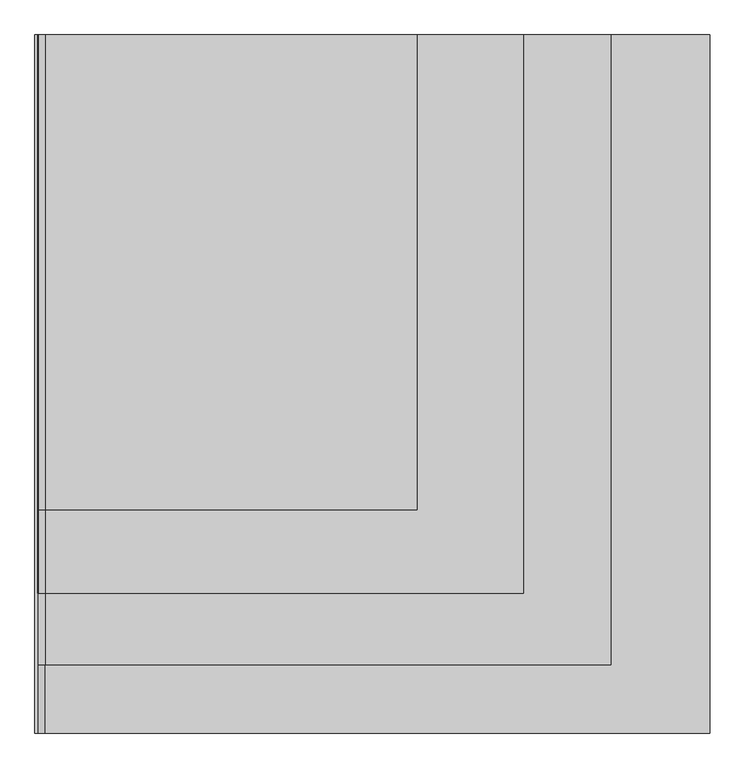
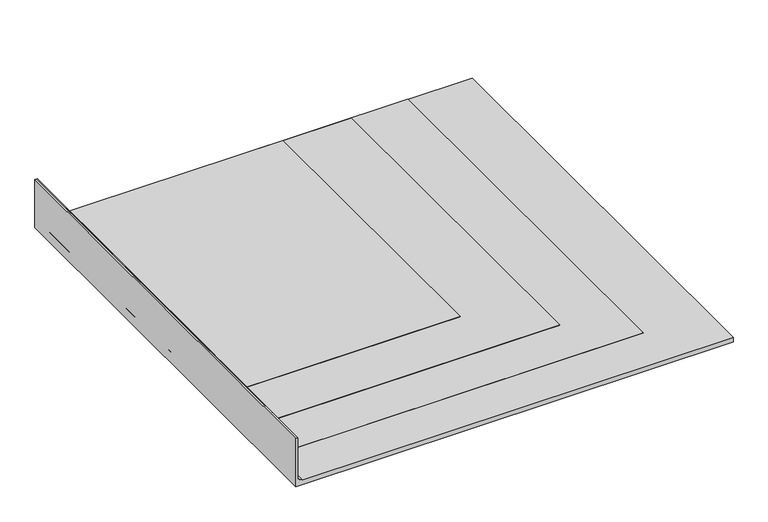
"""IFC4 building model written with IfcOpenShell, lengths in millimetres: proxy geometry, IMPER:IMPER:433934 : IMPER:IMPER:433934."""

import ifcopenshell
import ifcopenshell.guid

model = None  # the IFC model being written
_history = None  # IfcOwnerHistory: only IFC2X3 demands one
_inside = {}  # id of a spatial element -> (the spatial element, [elements in it])
_under = {}  # id of a project, library or spatial element -> (it, [spatial elements below it])
_declared = {}  # id of a project -> (the project, [libraries it declares])
_typed = {}  # id of a type object -> (the type object, [elements of that type])
_made_of = {}  # id of a material, layer set ... -> (it, [elements and type objects made of it])


def new_model(schema):
    """Start an empty IFC model of exactly this schema.

    Asked for "IFC4X3", IfcOpenShell would pick the latest addendum, in which some entities
    have other attributes; the version numbers below select the first issue.
    IFC2X3 requires an IfcOwnerHistory on every rooted entity: one is made here for all.
    """
    global model, _history
    if schema == "IFC4X3":
        model = ifcopenshell.file(schema_version=(4, 3, 0, 0))
    else:
        model = ifcopenshell.file(schema=schema)
    _inside.clear()
    _under.clear()
    _declared.clear()
    _typed.clear()
    _made_of.clear()
    _history = None
    if model.schema == "IFC2X3":
        org = make("IfcOrganization", Name="unknown")
        user = make(
            "IfcPersonAndOrganization",
            ThePerson=make("IfcPerson", FamilyName="unknown"),
            TheOrganization=org,
        )
        app = make(
            "IfcApplication",
            ApplicationDeveloper=org,
            Version="unknown",
            ApplicationFullName="unknown",
            ApplicationIdentifier="unknown",
        )
        _history = make(
            "IfcOwnerHistory",
            OwningUser=user,
            OwningApplication=app,
            ChangeAction="ADDED",
            CreationDate=0,
        )
    return model


def make(cls, **values):
    """One entity of the class cls with the attributes given. An attribute that is None is left unset."""
    return model.create_entity(
        cls, **{name: value for name, value in values.items() if value is not None}
    )


def rooted(cls, **values):
    """An entity with a GlobalId (a new one), such as an element, a storey or a relation."""
    return make(cls, GlobalId=ifcopenshell.guid.new(), OwnerHistory=_history, **values)


def si_unit(unit_type, name, prefix=None):
    """IfcSIUnit, for example si_unit("LENGTHUNIT", "METRE", prefix="MILLI")."""
    return make("IfcSIUnit", UnitType=unit_type, Prefix=prefix, Name=name)


def assignment(units):
    """IfcUnitAssignment: the units of a project."""
    return None if units is None else make("IfcUnitAssignment", Units=units)


def point(xyz):
    """IfcCartesianPoint."""
    return None if xyz is None else make("IfcCartesianPoint", Coordinates=xyz)


def direction(xyz):
    """IfcDirection."""
    return None if xyz is None else make("IfcDirection", DirectionRatios=xyz)


def frame(location, z_axis=None, x_axis=None):
    """IfcAxis2Placement3D, a coordinate frame: its origin and axes. An axis left out is left unset."""
    return make(
        "IfcAxis2Placement3D",
        Location=point(location),
        Axis=direction(z_axis),
        RefDirection=direction(x_axis),
    )


def frame_2d(location, x_axis=None):
    """IfcAxis2Placement2D, a coordinate frame in the plane: its origin and x axis."""
    return make(
        "IfcAxis2Placement2D", Location=point(location), RefDirection=direction(x_axis)
    )


def origin():
    """The frame at (0, 0, 0) with its axes left unset."""
    return frame((0.0, 0.0, 0.0))


def place(relative_to, where):
    """IfcLocalPlacement: puts the frame where relative to a parent placement (None: the world)."""
    return make(
        "IfcLocalPlacement", PlacementRelTo=relative_to, RelativePlacement=where
    )


def context(
    kind, dimensions, precision=None, world=None, true_north=None, identifier=None
):
    """IfcGeometricRepresentationContext, for example the 3D "Model" context."""
    return make(
        "IfcGeometricRepresentationContext",
        ContextIdentifier=identifier,
        ContextType=kind,
        CoordinateSpaceDimension=dimensions,
        Precision=precision,
        WorldCoordinateSystem=world,
        TrueNorth=true_north,
    )


def project(units=None, contexts=None):
    """IfcProject with its units and contexts."""
    return rooted(
        "IfcProject",
        Name="project",
        RepresentationContexts=contexts,
        UnitsInContext=assignment(units),
    )


def spatial(cls, under=None, at=None, **own):
    """A site, building, storey or space (cls), placed at a placement, below another one or the project."""
    s = rooted(cls, ObjectPlacement=at, **own)
    if under is not None:
        _under.setdefault(under.id(), (under, []))[1].append(s)
    return s


def polyline(points):
    """IfcPolyline through the points."""
    return make("IfcPolyline", Points=[point(p) for p in points])


def circle_curve(where, radius):
    """IfcCircle in the frame where."""
    return make("IfcCircle", Position=where, Radius=radius)


def trimmed(basis, trim1, trim2, sense, master):
    """IfcTrimmedCurve: the piece of a basis curve between two trims."""
    return make(
        "IfcTrimmedCurve",
        BasisCurve=basis,
        Trim1=trim1,
        Trim2=trim2,
        SenseAgreement=sense,
        MasterRepresentation=master,
    )


def segment(curve, same_sense, transition):
    """IfcCompositeCurveSegment."""
    return make(
        "IfcCompositeCurveSegment",
        Transition=transition,
        SameSense=same_sense,
        ParentCurve=curve,
    )


def composite_curve(segments, self_intersect=None):
    """IfcCompositeCurve: segments joined end to end."""
    return make("IfcCompositeCurve", Segments=segments, SelfIntersect=self_intersect)


def outline(outer, holes=None, kind="AREA"):
    """IfcArbitraryClosedProfileDef: a profile drawn as a closed curve; with holes, ...WithVoids."""
    if holes is None:
        return make("IfcArbitraryClosedProfileDef", ProfileType=kind, OuterCurve=outer)
    return make(
        "IfcArbitraryProfileDefWithVoids",
        ProfileType=kind,
        OuterCurve=outer,
        InnerCurves=holes,
    )


def extrude(swept, where, along, depth):
    """IfcExtrudedAreaSolid: the profile swept, set in the frame where, extruded along a direction by depth."""
    return make(
        "IfcExtrudedAreaSolid",
        SweptArea=swept,
        Position=where,
        ExtrudedDirection=direction(along),
        Depth=depth,
    )


def shape(context_of_items, identifier, shape_type, items):
    """IfcShapeRepresentation: the items that make up one representation, for example the "Body"."""
    return make(
        "IfcShapeRepresentation",
        ContextOfItems=context_of_items,
        RepresentationIdentifier=identifier,
        RepresentationType=shape_type,
        Items=items,
    )


def source(mapping_origin, context_of_items, identifier, shape_type, items):
    """IfcRepresentationMap: a shape defined once, which mapped items show again and again."""
    return make(
        "IfcRepresentationMap",
        MappingOrigin=mapping_origin,
        MappedRepresentation=shape(context_of_items, identifier, shape_type, items),
    )


def transform(
    local_origin,
    x_axis=None,
    y_axis=None,
    z_axis=None,
    scale=None,
    scale2=None,
    scale3=None,
    uniform=True,
):
    """IfcCartesianTransformationOperator3D, or its non-uniform kind. x_axis, y_axis, z_axis: its Axis1, 2, 3."""
    if uniform:
        return make(
            "IfcCartesianTransformationOperator3D",
            Axis1=direction(x_axis),
            Axis2=direction(y_axis),
            LocalOrigin=point(local_origin),
            Scale=scale,
            Axis3=direction(z_axis),
        )
    return make(
        "IfcCartesianTransformationOperator3DnonUniform",
        Axis1=direction(x_axis),
        Axis2=direction(y_axis),
        LocalOrigin=point(local_origin),
        Scale=scale,
        Axis3=direction(z_axis),
        Scale2=scale2,
        Scale3=scale3,
    )


def mapped(mapping_source, mapping_target):
    """IfcMappedItem: shows the shape of a source again, moved by a transform."""
    return make(
        "IfcMappedItem", MappingSource=mapping_source, MappingTarget=mapping_target
    )


def made_of(thing, what):
    """Note that an element or type object is made of a material, layer set ...; save() writes the relation."""
    if what is not None:
        _made_of.setdefault(what.id(), (what, []))[1].append(thing)
    return thing


def element(
    cls,
    number,
    at=None,
    inside=None,
    cuts=None,
    type_object=None,
    material=None,
    context=None,
    identifier="Body",
    shape_type=None,
    held_by="IfcProductDefinitionShape",
    body=None,
    shapes=None,
    **own,
):
    """One element of the class cls, such as IfcWall. Its Tag is "e" and its number.

    at: its placement. inside: the storey or other place that contains it. cuts: it is an
    opening in that element (IfcRelVoidsElement). A single representation is given by context,
    identifier, shape_type and body (its items); several are given by shapes. held_by: the class
    of the entity that holds the representations. save() writes the other relations.
    """
    e = rooted(cls, Tag="e%d" % number, ObjectPlacement=at, **own)
    if body is not None:
        shapes = [shape(context, identifier, shape_type, body)]
    if shapes is not None:
        e.Representation = make(held_by, Representations=shapes)
    if inside is not None:
        _inside.setdefault(inside.id(), (inside, []))[1].append(e)
    if cuts is not None:
        rooted(
            "IfcRelVoidsElement", RelatingBuildingElement=cuts, RelatedOpeningElement=e
        )
    if type_object is not None:
        _typed.setdefault(type_object.id(), (type_object, []))[1].append(e)
    return made_of(e, material)


def aggregate(whole, parts):
    """IfcRelAggregates: a whole, such as a stair, and the parts it consists of."""
    return rooted("IfcRelAggregates", RelatingObject=whole, RelatedObjects=parts)


def save(model, path):
    """Write the relations noted so far, then the file.

    IfcRelAggregates (storeys below a building ...), IfcRelContainedInSpatialStructure (elements
    in a storey), IfcRelDefinesByType, IfcRelAssociatesMaterial and IfcRelDeclares: one each for
    every whole, place, type object, material and project.
    """
    for whole, parts in _under.values():
        aggregate(whole, parts)
    for where, things in _inside.values():
        rooted(
            "IfcRelContainedInSpatialStructure",
            RelatedElements=things,
            RelatingStructure=where,
        )
    for kind, things in _typed.values():
        rooted("IfcRelDefinesByType", RelatedObjects=things, RelatingType=kind)
    for what, things in _made_of.values():
        rooted("IfcRelAssociatesMaterial", RelatedObjects=things, RelatingMaterial=what)
    for by, libraries in _declared.values():
        rooted("IfcRelDeclares", RelatingContext=by, RelatedDefinitions=libraries)
    model.write(path)


def generic_models_990b24d9(model_context):
    return source(origin(), model_context, "Body", "SweptSolid", [
        extrude(outline(composite_curve([segment(polyline([(29.3018705, -313.1733412), (29.3018705, 1105.5691572), (30.3018705, 1105.5691572), (30.3018705, -313.1518102)]), True, "CONTINUOUS"), segment(trimmed(circle_curve(frame_2d((57.476202, -311.9704105)), 27.2), [point((30.3018705, -313.1518102))], [point((56.6918921, -339.1591004))], True, "CARTESIAN"), True, "CONTINUOUS"), segment(polyline([(56.6918921, -339.1591004), (297.476202, -339.1591004), (297.476202, -340.1591004), (56.6776019, -340.1591004)]), True, "CONTINUOUS"), segment(trimmed(circle_curve(frame_2d((57.476202, -311.9704105)), 28.2), [point((56.6776019, -340.1591004))], [point((29.3018705, -313.1733412))], False, "CARTESIAN"), True, "CONTINUOUS")], self_intersect=False)), frame((0.0, -1663.6634516, 0.0), z_axis=(0.0, 1.0, 0.0), x_axis=(0.0, 0.0, 1.0)), (0.0, 0.0, 1.0), 1809.5334711),
        extrude(outline(composite_curve([segment(polyline([(28.5018705, -313.1902924), (28.5018705, 1509.5530663), (29.3018705, 1509.5530663), (29.3018705, -313.1733412)]), True, "CONTINUOUS"), segment(trimmed(circle_curve(frame_2d((57.476202, -311.9704105)), 28.2), [point((29.3018705, -313.1733412))], [point((56.6776019, -340.1591004))], True, "CARTESIAN"), True, "CONTINUOUS"), segment(polyline([(56.6776019, -340.1591004), (297.476202, -340.1591004), (297.476202, -340.9591004), (56.6663512, -340.9591004)]), True, "CONTINUOUS"), segment(trimmed(circle_curve(frame_2d((57.476202, -311.9704105)), 29.0), [point((56.6663512, -340.9591004))], [point((28.5018705, -313.1902924))], False, "CARTESIAN"), True, "CONTINUOUS")], self_intersect=False)), frame((0.0, -1981.6616434, 0.0), z_axis=(0.0, 1.0, 0.0), x_axis=(0.0, 0.0, 1.0)), (0.0, 0.0, 1.0), 2127.5316629),
        extrude(outline(composite_curve([segment(trimmed(circle_curve(frame_2d((57.476202, -311.9704105)), 30.0), [point((27.476202, -311.9704105))], [point((57.476202, -341.9704105))], True, "CARTESIAN"), True, "CONTINUOUS"), segment(polyline([(57.476202, -341.9704105), (297.476202, -341.9704105), (297.476202, -351.9704105), (-2.523798, -351.9704105), (-2.523798, 2221.8598581), (27.476202, 2221.8598581), (27.476202, -311.9704105)]), True, "CONTINUOUS")], self_intersect=False)), frame((0.0, -2514.1299805, 0.0), z_axis=(0.0, 1.0, 0.0), x_axis=(0.0, 0.0, 1.0)), (0.0, 0.0, 1.0), 2660.0),
        extrude(outline(composite_curve([segment(polyline([(56.6663512, -340.9591004), (297.476202, -340.9591004), (297.476202, -341.9704105), (57.476202, -341.9704105)]), True, "CONTINUOUS"), segment(trimmed(circle_curve(frame_2d((57.476202, -311.9704105)), 30.0), [point((57.476202, -341.9704105))], [point((27.476202, -311.9704105))], False, "CARTESIAN"), True, "CONTINUOUS"), segment(polyline([(27.476202, -311.9704105), (27.476202, 1843.8528814), (28.5018705, 1843.8528814), (28.5018705, -313.1902924)]), True, "CONTINUOUS"), segment(trimmed(circle_curve(frame_2d((57.476202, -311.9704105)), 29.0), [point((28.5018705, -313.1902924))], [point((56.6663512, -340.9591004))], True, "CARTESIAN"), True, "CONTINUOUS")], self_intersect=False)), frame((0.0, -2254.1299805, 0.0), z_axis=(0.0, 1.0, 0.0), x_axis=(0.0, 0.0, 1.0)), (0.0, 0.0, 1.0), 2400.0),
    ])


if __name__ == "__main__":
    model = new_model("IFC4")
    model_context = context("Model", 3, world=origin())
    ifc_project = project(units=[si_unit("LENGTHUNIT", "METRE", prefix="MILLI")], contexts=[model_context])
    site = spatial("IfcSite", under=ifc_project)
    building = spatial("IfcBuilding", under=site)
    placement = place(None, origin())
    generic_models_shape = generic_models_990b24d9(model_context)
    element("IfcBuildingElementProxy", 1, Name="IMPER:IMPER:433934 : IMPER:IMPER:433934", ObjectType="IMPER:IMPER:433934 : IMPER:IMPER:433934", at=placement, inside=building, context=model_context, shape_type="MappedRepresentation", body=[
        mapped(generic_models_shape, transform((0.0, 0.0, 0.0), x_axis=(1.0, 0.0, 0.0), y_axis=(0.0, 1.0, 0.0), z_axis=(0.0, 0.0, 1.0))),
    ])
    save(model, "model.ifc")
